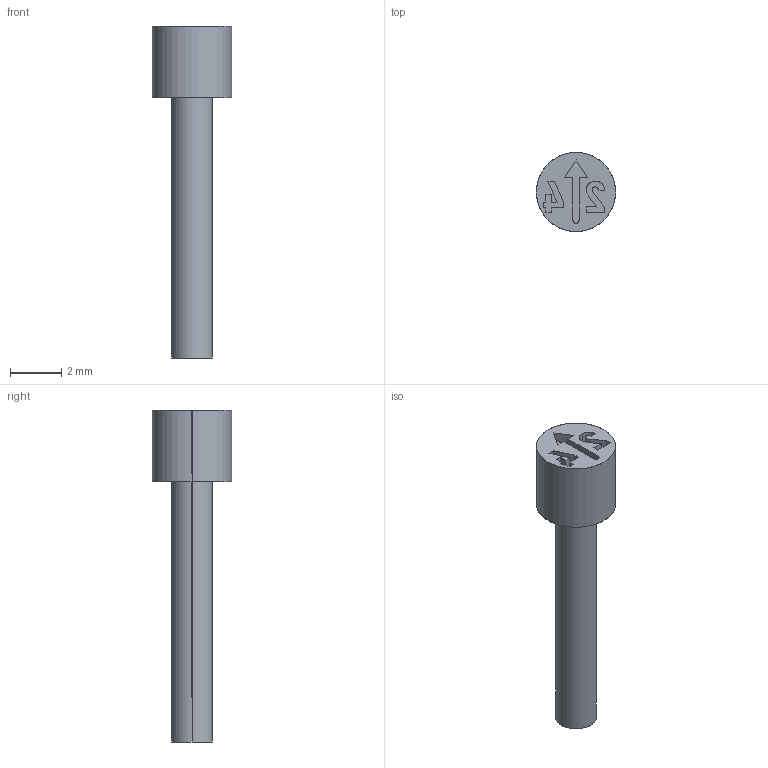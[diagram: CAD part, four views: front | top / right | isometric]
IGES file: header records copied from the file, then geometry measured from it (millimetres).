
Start section: SolidWorks IGES file using analytic representation for surfaces
Global section: file name: C:\Users\365admin\AppData\Local\Temp\InFlowConvert3DWorking\DNP06-24.igs; native system: SolidWorks 2019; preprocessor: SolidWorks 2019; author: 365admin; date: 220211.211259; units: millimetre
Bounding box: 3.1 x 3.1 x 13 mm (x, y, z)
Surface area: 99.9 mm2 (no closed solid volume)
Topology: 0 solids, 0 shells, 49 faces, 424 edges, 424 vertices
Faces by surface type: bspline 44, revolution 5
